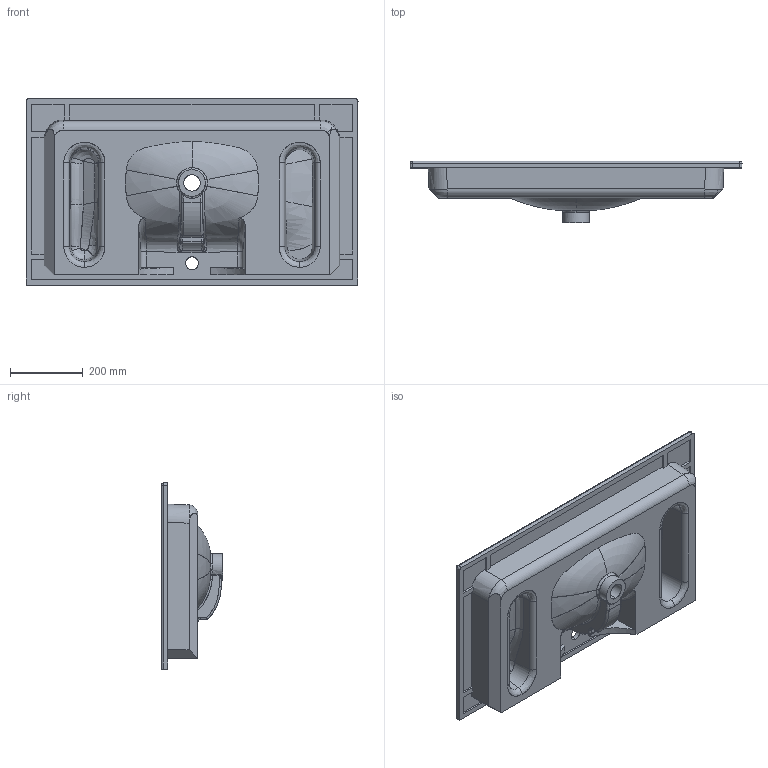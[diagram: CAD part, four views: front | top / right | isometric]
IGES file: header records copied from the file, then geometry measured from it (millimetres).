
Start section: SolidWorks IGES file using NURBS representation for surfaces
Global section: file name: C:\Users\User\Desktop\Soft\lavabi definitivi soft 51 m\soft 910 x 515\definitivo soft 910 x 515.IGS; native system: SolidWorks 2016; preprocessor: SolidWorks 2016; author: User; date: 200629.170330; units: millimetre
Bounding box: 910 x 168 x 510 mm (x, y, z)
Surface area: 1359235.3 mm2 (no closed solid volume)
Topology: 0 solids, 0 shells, 193 faces, 2847 edges, 2839 vertices
Faces by surface type: bspline 193
